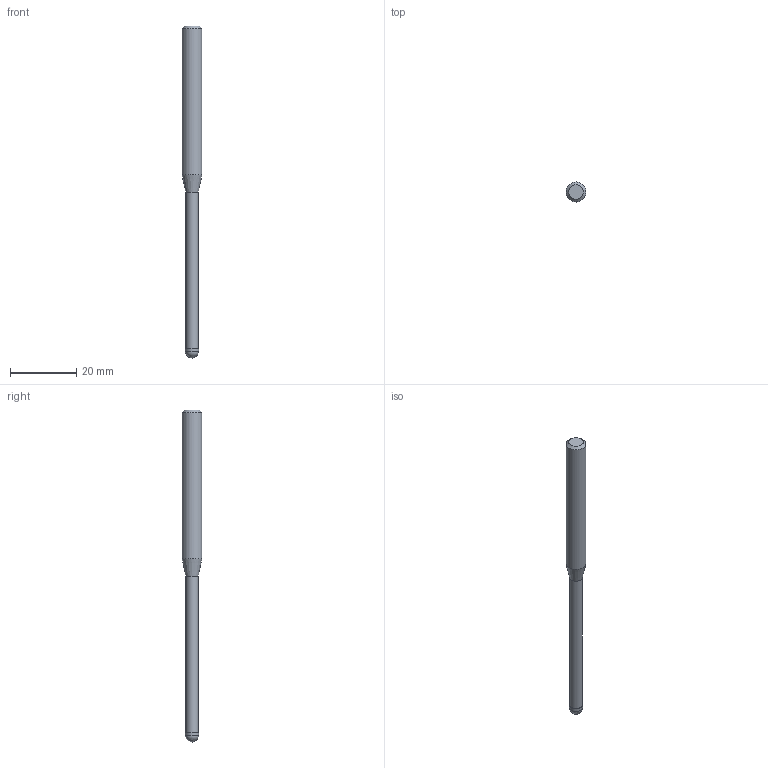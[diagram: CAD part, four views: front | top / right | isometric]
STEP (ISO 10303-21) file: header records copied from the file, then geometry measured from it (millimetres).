
FILE_DESCRIPTION((''),'2;1');
FILE_NAME('C:\Users\nsx150\AppData\Local\Temp\Mastercam 2021\ARV7HD45SN\TEMP.step','2023-06-13T16:39:24',(''),(''),'STEP Write','Mastercam 2021 ... CNC Software, Inc.','');
FILE_SCHEMA(('AUTOMOTIVE_DESIGN'));
Length unit declared in the file: millimetre
Products named in the file (1): None
Bounding box: 6 x 6 x 100 mm (x, y, z)
Volume: 1923.5 mm3; surface area: 1567.7 mm2
Topology: 2 solids, 2 shells, 9 faces, 14 edges, 8 vertices
Faces by surface type: plane 3, cylinder 3, cone 2, sphere 1
Full cylindrical faces by diameter (mm): 3.8 x1, 4 x1, 6 x1
Entity records: 211 total; most frequent: DIRECTION 36, CARTESIAN_POINT 25, AXIS2_PLACEMENT_3D 18, ORIENTED_EDGE 14, EDGE_LOOP 14, STYLED_ITEM 12, ADVANCED_FACE 9, FACE_BOUND 8
